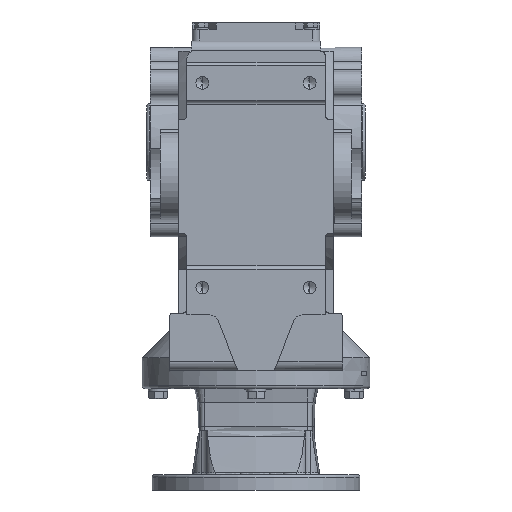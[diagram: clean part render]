
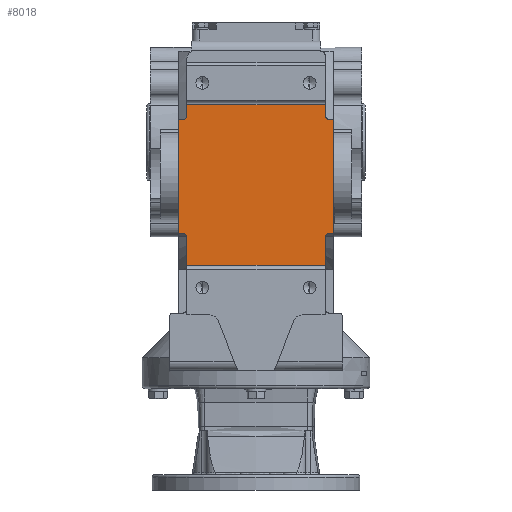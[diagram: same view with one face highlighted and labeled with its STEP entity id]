
A CAD part, front view. The second image highlights one B-rep face of the part: STEP entity #8018.
In plain terms, the highlighted planar face has unit normal (0, -1, 0).
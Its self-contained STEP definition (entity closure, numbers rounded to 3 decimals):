
#8018 = ADVANCED_FACE ( 'NONE', ( #37812 ), #52920, .T. ) ;
#8547 = EDGE_CURVE ( 'NONE', #30583, #30562, #37595, .T. ) ;
#8549 = EDGE_CURVE ( 'NONE', #30583, #30529, #37593, .T. ) ;
#8554 = EDGE_CURVE ( 'NONE', #30523, #30526, #37588, .T. ) ;
#8563 = EDGE_CURVE ( 'NONE', #30538, #30559, #37581, .T. ) ;
#8569 = EDGE_CURVE ( 'NONE', #30520, #30559, #37575, .T. ) ;
#8574 = EDGE_CURVE ( 'NONE', #30520, #30511, #37584, .T. ) ;
#8578 = EDGE_CURVE ( 'NONE', #30514, #30511, #37568, .T. ) ;
#8581 = EDGE_CURVE ( 'NONE', #30514, #30562, #37565, .T. ) ;
#8598 = EDGE_CURVE ( 'NONE', #30499, #30493, #37555, .T. ) ;
#8647 = EDGE_CURVE ( 'NONE', #30529, #30526, #11289, .T. ) ;
#8797 = EDGE_CURVE ( 'NONE', #30493, #30538, #11081, .T. ) ;
#8944 = EDGE_CURVE ( 'NONE', #30259, #30523, #10878, .T. ) ;
#8951 = EDGE_CURVE ( 'NONE', #30499, #30258, #10866, .T. ) ;
#8953 = EDGE_CURVE ( 'NONE', #30074, #30258, #10860, .T. ) ;
#8955 = EDGE_CURVE ( 'NONE', #30074, #30256, #10871, .T. ) ;
#8958 = EDGE_CURVE ( 'NONE', #30259, #30256, #10851, .T. ) ;
#10430 = CARTESIAN_POINT ( 'NONE',  ( -76., -206., -135.346 ) ) ;
#10579 = CARTESIAN_POINT ( 'NONE',  ( 76., -206., -135.346 ) ) ;
#10581 = CARTESIAN_POINT ( 'NONE',  ( -76., -206., -105. ) ) ;
#10582 = CARTESIAN_POINT ( 'NONE',  ( 76., -206., -105. ) ) ;
#10639 = CARTESIAN_POINT ( 'NONE',  ( -81., -206., -100. ) ) ;
#10642 = CARTESIAN_POINT ( 'NONE',  ( -85., -206., -100. ) ) ;
#10645 = CARTESIAN_POINT ( 'NONE',  ( -76., -206., 41. ) ) ;
#10646 = CARTESIAN_POINT ( 'NONE',  ( 76., -206., 41. ) ) ;
#10649 = CARTESIAN_POINT ( 'NONE',  ( -76., -206., 29.651 ) ) ;
#10650 = CARTESIAN_POINT ( 'NONE',  ( 81., -206., -100. ) ) ;
#10651 = CARTESIAN_POINT ( 'NONE',  ( 85., -206., -100. ) ) ;
#10652 = CARTESIAN_POINT ( 'NONE',  ( 85., -206., 24.651 ) ) ;
#10655 = CARTESIAN_POINT ( 'NONE',  ( -85., -206., 24.651 ) ) ;
#10662 = CARTESIAN_POINT ( 'NONE',  ( -81., -206., 24.651 ) ) ;
#10663 = CARTESIAN_POINT ( 'NONE',  ( 76., -206., 29.651 ) ) ;
#10669 = CARTESIAN_POINT ( 'NONE',  ( 81., -206., 24.651 ) ) ;
#10797 = VECTOR ( 'NONE', #53594, 1000. ) ;
#10844 = VECTOR ( 'NONE', #52117, 1000. ) ;
#10849 = VECTOR ( 'NONE', #52115, 1000. ) ;
#10851 = LINE ( 'NONE', #52116, #10844 ) ;
#10854 = VECTOR ( 'NONE', #52103, 1000. ) ;
#10860 = LINE ( 'NONE', #52108, #10854 ) ;
#10866 = CIRCLE ( 'NONE', #44742, 5. ) ;
#10871 = LINE ( 'NONE', #52110, #10849 ) ;
#10878 = CIRCLE ( 'NONE', #44741, 5. ) ;
#11075 = VECTOR ( 'NONE', #51940, 1000. ) ;
#11081 = LINE ( 'NONE', #51939, #11075 ) ;
#11283 = VECTOR ( 'NONE', #53659, 1000. ) ;
#11289 = LINE ( 'NONE', #53658, #11283 ) ;
#25347 = ORIENTED_EDGE ( 'NONE', *, *, #8547, .T. ) ;
#25349 = ORIENTED_EDGE ( 'NONE', *, *, #8549, .F. ) ;
#25351 = ORIENTED_EDGE ( 'NONE', *, *, #8647, .F. ) ;
#25353 = ORIENTED_EDGE ( 'NONE', *, *, #8554, .T. ) ;
#25355 = ORIENTED_EDGE ( 'NONE', *, *, #8944, .T. ) ;
#25357 = ORIENTED_EDGE ( 'NONE', *, *, #8958, .F. ) ;
#25359 = ORIENTED_EDGE ( 'NONE', *, *, #8955, .T. ) ;
#25361 = ORIENTED_EDGE ( 'NONE', *, *, #8953, .F. ) ;
#25363 = ORIENTED_EDGE ( 'NONE', *, *, #8951, .T. ) ;
#25365 = ORIENTED_EDGE ( 'NONE', *, *, #8598, .F. ) ;
#25367 = ORIENTED_EDGE ( 'NONE', *, *, #8797, .F. ) ;
#25369 = ORIENTED_EDGE ( 'NONE', *, *, #8563, .F. ) ;
#25371 = ORIENTED_EDGE ( 'NONE', *, *, #8569, .T. ) ;
#25373 = ORIENTED_EDGE ( 'NONE', *, *, #8574, .F. ) ;
#25375 = ORIENTED_EDGE ( 'NONE', *, *, #8578, .T. ) ;
#25377 = ORIENTED_EDGE ( 'NONE', *, *, #8581, .F. ) ;
#30074 = VERTEX_POINT ( 'NONE', #10430 ) ;
#30256 = VERTEX_POINT ( 'NONE', #10579 ) ;
#30258 = VERTEX_POINT ( 'NONE', #10581 ) ;
#30259 = VERTEX_POINT ( 'NONE', #10582 ) ;
#30493 = VERTEX_POINT ( 'NONE', #10642 ) ;
#30499 = VERTEX_POINT ( 'NONE', #10639 ) ;
#30511 = VERTEX_POINT ( 'NONE', #10645 ) ;
#30514 = VERTEX_POINT ( 'NONE', #10646 ) ;
#30520 = VERTEX_POINT ( 'NONE', #10649 ) ;
#30523 = VERTEX_POINT ( 'NONE', #10650 ) ;
#30526 = VERTEX_POINT ( 'NONE', #10651 ) ;
#30529 = VERTEX_POINT ( 'NONE', #10652 ) ;
#30538 = VERTEX_POINT ( 'NONE', #10655 ) ;
#30559 = VERTEX_POINT ( 'NONE', #10662 ) ;
#30562 = VERTEX_POINT ( 'NONE', #10663 ) ;
#30583 = VERTEX_POINT ( 'NONE', #10669 ) ;
#37555 = LINE ( 'NONE', #53593, #10797 ) ;
#37563 = VECTOR ( 'NONE', #53553, 1000. ) ;
#37565 = LINE ( 'NONE', #53552, #37563 ) ;
#37566 = VECTOR ( 'NONE', #53545, 1000. ) ;
#37568 = LINE ( 'NONE', #53550, #37566 ) ;
#37569 = VECTOR ( 'NONE', #53551, 1000. ) ;
#37575 = CIRCLE ( 'NONE', #44698, 5. ) ;
#37578 = VECTOR ( 'NONE', #53540, 1000. ) ;
#37581 = LINE ( 'NONE', #53539, #37578 ) ;
#37584 = LINE ( 'NONE', #53546, #37569 ) ;
#37585 = VECTOR ( 'NONE', #53530, 1000. ) ;
#37588 = LINE ( 'NONE', #53529, #37585 ) ;
#37589 = VECTOR ( 'NONE', #53521, 1000. ) ;
#37593 = LINE ( 'NONE', #53523, #37589 ) ;
#37595 = CIRCLE ( 'NONE', #44696, 5. ) ;
#37812 = FACE_OUTER_BOUND ( 'NONE', #49526, .T. ) ;
#44650 = AXIS2_PLACEMENT_3D ( 'NONE', #52913, #52922, #52923 ) ;
#44696 = AXIS2_PLACEMENT_3D ( 'NONE', #53524, #53525, #53526 ) ;
#44698 = AXIS2_PLACEMENT_3D ( 'NONE', #53547, #53548, #53549 ) ;
#44741 = AXIS2_PLACEMENT_3D ( 'NONE', #52105, #52106, #52107 ) ;
#44742 = AXIS2_PLACEMENT_3D ( 'NONE', #52111, #52112, #52113 ) ;
#49526 = EDGE_LOOP ( 'NONE', ( #25377, #25375, #25373, #25371, #25369, #25367, #25365, #25363, #25361, #25359, #25357, #25355, #25353, #25351, #25349, #25347 ) ) ;
#51939 = CARTESIAN_POINT ( 'NONE',  ( -85., -206., 7. ) ) ;
#51940 = DIRECTION ( 'NONE',  ( 0., 0., 1. ) ) ;
#52103 = DIRECTION ( 'NONE',  ( 0., 0., 1. ) ) ;
#52105 = CARTESIAN_POINT ( 'NONE',  ( 81., -206., -105. ) ) ;
#52106 = DIRECTION ( 'NONE',  ( 0., 1., 0. ) ) ;
#52107 = DIRECTION ( 'NONE',  ( 0., 0., -1. ) ) ;
#52108 = CARTESIAN_POINT ( 'NONE',  ( -76., -206., -103. ) ) ;
#52110 = CARTESIAN_POINT ( 'NONE',  ( -112., -206., -135.346 ) ) ;
#52111 = CARTESIAN_POINT ( 'NONE',  ( -81., -206., -105. ) ) ;
#52112 = DIRECTION ( 'NONE',  ( 0., 1., 0. ) ) ;
#52113 = DIRECTION ( 'NONE',  ( 0., 0., -1. ) ) ;
#52115 = DIRECTION ( 'NONE',  ( 1., 0., 0. ) ) ;
#52116 = CARTESIAN_POINT ( 'NONE',  ( 76., -206., -100. ) ) ;
#52117 = DIRECTION ( 'NONE',  ( 0., 0., -1. ) ) ;
#52913 = CARTESIAN_POINT ( 'NONE',  ( -112., -206., 7. ) ) ;
#52920 = PLANE ( 'NONE',  #44650 ) ;
#52922 = DIRECTION ( 'NONE',  ( 0., -1., 0. ) ) ;
#52923 = DIRECTION ( 'NONE',  ( 0., 0., -1. ) ) ;
#53521 = DIRECTION ( 'NONE',  ( 1., 0., 0. ) ) ;
#53523 = CARTESIAN_POINT ( 'NONE',  ( 85., -206., 24.651 ) ) ;
#53524 = CARTESIAN_POINT ( 'NONE',  ( 81., -206., 29.651 ) ) ;
#53525 = DIRECTION ( 'NONE',  ( 0., 1., 0. ) ) ;
#53526 = DIRECTION ( 'NONE',  ( 0., 0., -1. ) ) ;
#53529 = CARTESIAN_POINT ( 'NONE',  ( 76., -206., -100. ) ) ;
#53530 = DIRECTION ( 'NONE',  ( 1., 0., 0. ) ) ;
#53539 = CARTESIAN_POINT ( 'NONE',  ( -76., -206., 24.651 ) ) ;
#53540 = DIRECTION ( 'NONE',  ( 1., 0., 0. ) ) ;
#53545 = DIRECTION ( 'NONE',  ( -1., 0., 0. ) ) ;
#53546 = CARTESIAN_POINT ( 'NONE',  ( -76., -206., 46. ) ) ;
#53547 = CARTESIAN_POINT ( 'NONE',  ( -81., -206., 29.651 ) ) ;
#53548 = DIRECTION ( 'NONE',  ( 0., 1., 0. ) ) ;
#53549 = DIRECTION ( 'NONE',  ( 0., 0., -1. ) ) ;
#53550 = CARTESIAN_POINT ( 'NONE',  ( -112., -206., 41. ) ) ;
#53551 = DIRECTION ( 'NONE',  ( 0., 0., 1. ) ) ;
#53552 = CARTESIAN_POINT ( 'NONE',  ( 76., -206., 46. ) ) ;
#53553 = DIRECTION ( 'NONE',  ( 0., 0., -1. ) ) ;
#53593 = CARTESIAN_POINT ( 'NONE',  ( -76., -206., -100. ) ) ;
#53594 = DIRECTION ( 'NONE',  ( -1., 0., 0. ) ) ;
#53658 = CARTESIAN_POINT ( 'NONE',  ( 85., -206., 7. ) ) ;
#53659 = DIRECTION ( 'NONE',  ( 0., 0., -1. ) ) ;
